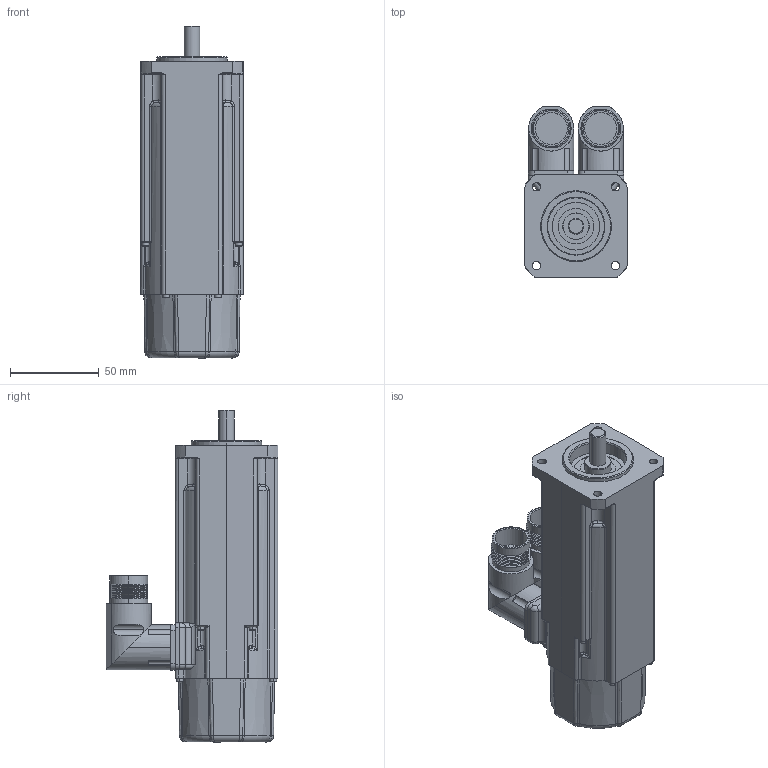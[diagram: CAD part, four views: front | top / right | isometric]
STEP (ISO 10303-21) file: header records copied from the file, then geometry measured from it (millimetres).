
FILE_DESCRIPTION (( 'STEP AP214' ), '1' );
FILE_NAME ('MR7723-Ux-Nxx-G01-A0D-MS-P0.stp', '2009-04-08T13:46:00', ( 'SysAdmin' ), ( 'SolidWorks' ), 'SwSTEP 2.0', 'SolidWorks 2009', '' );
FILE_SCHEMA (( 'AUTOMOTIVE_DESIGN' ));
Length unit declared in the file: millimetre
Products named in the file (1): MR7723-Ux-Nxx-G01-A0D-MS-P0
Bounding box: 58 x 97 x 187.5 mm (x, y, z)
Volume: 520439.7 mm3; surface area: 55574.9 mm2
Topology: 1 solids, 1 shells, 617 faces, 1546 edges, 928 vertices
Faces by surface type: cylinder 189, bspline 146, cone 124, plane 101, torus 57
Entity records: 25589 total; most frequent: CARTESIAN_POINT 9658, ORIENTED_EDGE 3032, DIRECTION 2653, EDGE_CURVE 1516, AXIS2_PLACEMENT_3D 1123, VERTEX_POINT 928, EDGE_LOOP 652, CIRCLE 651
